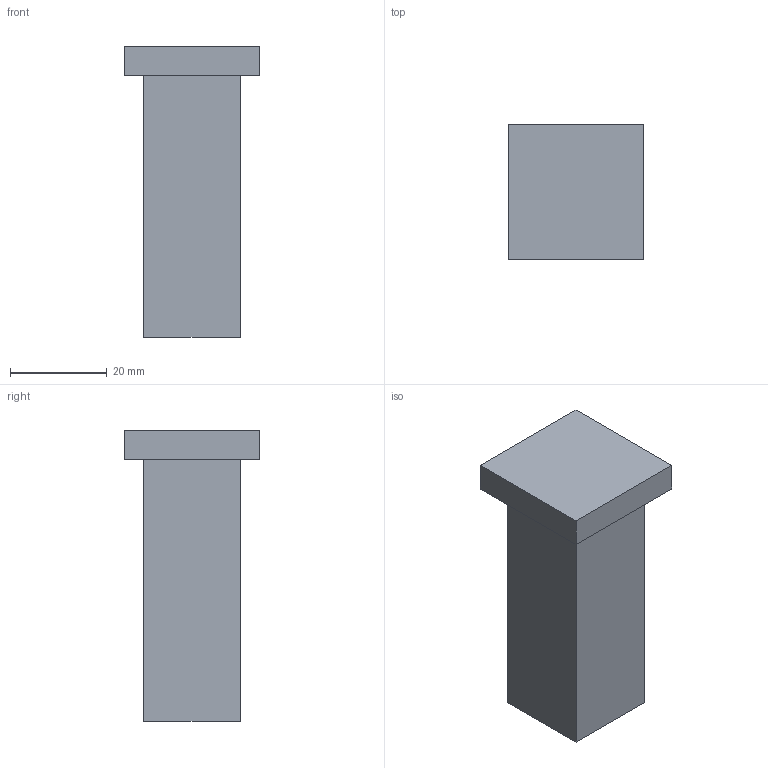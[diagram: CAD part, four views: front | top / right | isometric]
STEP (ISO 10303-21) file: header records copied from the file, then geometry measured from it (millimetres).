
FILE_DESCRIPTION(('Open CASCADE Model'),'2;1');
FILE_NAME('Open CASCADE Shape Model','2026-10-21T16:53:52',('Author'),( 'Open CASCADE'),'Open CASCADE STEP processor 7.9','Open CASCADE 7.9' ,'Unknown');
FILE_SCHEMA(('AUTOMOTIVE_DESIGN { 1 0 10303 214 1 1 1 1 }'));
Length unit declared in the file: millimetre
Products named in the file (1): Open CASCADE STEP translator 7.9 15
Bounding box: 28 x 28 x 60 mm (x, y, z)
Volume: 26304 mm3; surface area: 6560 mm2
Topology: 1 solids, 1 shells, 11 faces, 24 edges, 16 vertices
Faces by surface type: plane 11
Entity records: 620 total; most frequent: CARTESIAN_POINT 100, DIRECTION 96, LINE 72, VECTOR 72, ORIENTED_EDGE 48, PCURVE 48, DEFINITIONAL_REPRESENTATION 48, EDGE_CURVE 24
